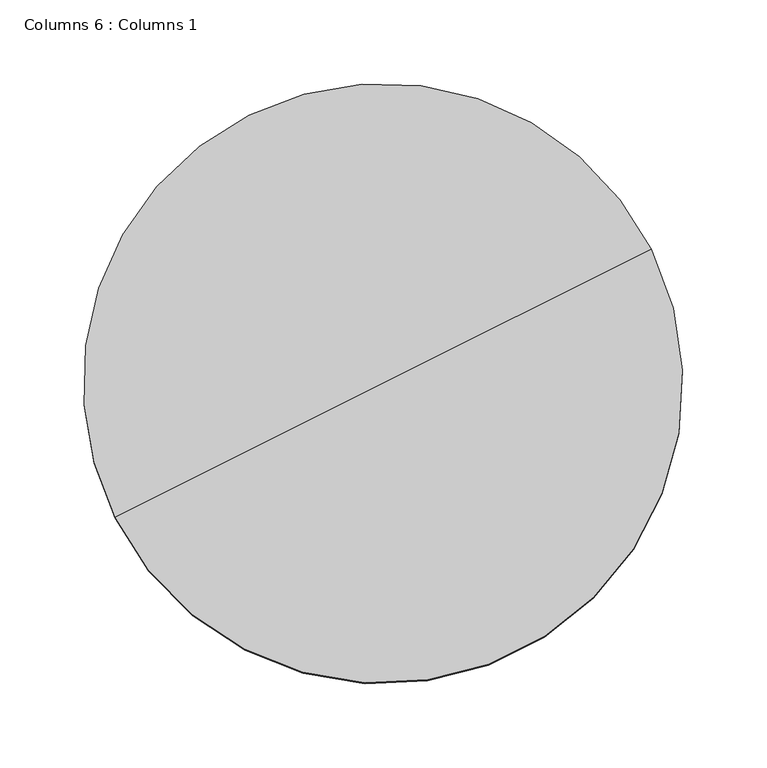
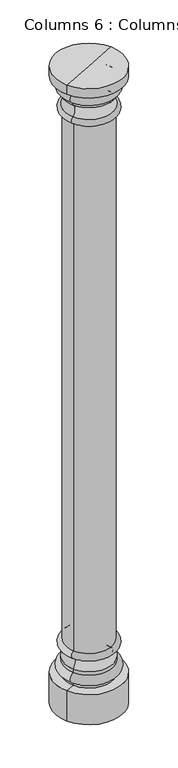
"""IFC4 building model written with IfcOpenShell, lengths in millimetres: column geometry, Columns 6 : Columns 1."""

from ifc_helpers import new_model, si_unit, point, frame, origin, place, context, project, spatial, circle_curve, ellipse_curve, trimmed, source, transform, mapped, element, save
from ifc_brep_helpers import plane_surface, cylinder_surface, revolved_surface, advanced_brep


def columns_6_columns_1_a7e48300(model_context):
    return source(origin(), model_context, "Body", "AdvancedBrep", [
        advanced_brep(
        [(-4598.42005, -9007.9465338, 3626.6477675), (-4916.5400464, -9166.8522539, 3626.6477675), (-4916.5400464, -9166.8522539, 3575.8477675), (-4598.42005, -9007.9465338, 3575.8477675), (-4757.4800482, -9087.3993938, 3626.6477675), (-4598.42005, -9007.9465338, 160.9345147), (-4916.5400464, -9166.8522539, 160.9345147), (-4757.4800482, -9087.3993938, 160.9345147), (-4598.42005, -9007.9465338, 324.6477676), (-4916.5400464, -9166.8522539, 324.6477676), (-4644.576497, -9031.0023729, 324.6477676), (-4870.3835993, -9143.7964148, 324.6477676), (-4644.576497, -9031.0023729, 343.7101955), (-4870.3835993, -9143.7964148, 343.7101955), (-4644.576497, -9031.0023729, 394.4853397), (-4870.3835993, -9143.7964148, 394.4853397), (-4644.576497, -9031.0023729, 413.5477676), (-4870.3835993, -9143.7964148, 413.5477676), (-4649.546478, -9033.4849531, 477.0477676), (-4865.4136184, -9141.3138346, 477.0477676), (-4649.546478, -9033.4849531, 508.7757334), (-4865.4136184, -9141.3138346, 508.7757334), (-4649.546478, -9033.4849531, 3391.7198017), (-4865.4136184, -9141.3138346, 3391.7198017), (-4643.8657638, -9030.6473509, 3391.7198017), (-4871.0943326, -9144.1514368, 3391.7198017), (-4643.8657638, -9030.6473509, 3423.4477675), (-4871.0943326, -9144.1514368, 3423.4477675), (-4643.8657638, -9030.6473509, 3486.9477675), (-4871.0943326, -9144.1514368, 3486.9477675), (-4643.8657638, -9030.6473509, 3505.9977675), (-4871.0943326, -9144.1514368, 3505.9977675), (-4643.8657638, -9030.6473509, 3556.7977675), (-4871.0943326, -9144.1514368, 3556.7977675), (-4643.8657638, -9030.6473509, 3575.8477675), (-4871.0943326, -9144.1514368, 3575.8477675)],
        [
            (0, 1, circle_curve(frame((-4757.4800482, -9087.3993938, 3626.6477675), z_axis=(0.0, 0.0, -1.0), x_axis=(-0.8946006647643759, -0.44686647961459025, 0.0)), 177.8)),
            (1, 2),
            (2, 3, circle_curve(frame((-4757.4800482, -9087.3993938, 3575.8477675), z_axis=(0.0, 0.0, 1.0), x_axis=(-0.8946006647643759, -0.44686647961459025, 0.0)), 177.8)),
            (3, 0),
            (1, 0, circle_curve(frame((-4757.4800482, -9087.3993938, 3626.6477675), z_axis=(0.0, 0.0, -1.0), x_axis=(-0.8946006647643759, -0.44686647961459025, 0.0)), 177.8)),
            (3, 2, circle_curve(frame((-4757.4800482, -9087.3993938, 3575.8477675), z_axis=(0.0, 0.0, 1.0), x_axis=(-0.8946006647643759, -0.44686647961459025, 0.0)), 177.8)),
            (4, 1),
            (0, 4),
            (5, 6, circle_curve(frame((-4757.4800482, -9087.3993938, 160.9345147), z_axis=(0.0, 0.0, -1.0), x_axis=(-0.8946006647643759, -0.44686647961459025, 0.0)), 177.8)),
            (6, 7),
            (7, 5),
            (6, 5, circle_curve(frame((-4757.4800482, -9087.3993938, 160.9345147), z_axis=(0.0, 0.0, -1.0), x_axis=(-0.8946006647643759, -0.44686647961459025, 0.0)), 177.8)),
            (8, 9, circle_curve(frame((-4757.4800482, -9087.3993938, 324.6477676), z_axis=(0.0, 0.0, -1.0), x_axis=(-0.8946006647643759, -0.44686647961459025, 0.0)), 177.8)),
            (9, 6),
            (5, 8),
            (9, 8, circle_curve(frame((-4757.4800482, -9087.3993938, 324.6477676), z_axis=(0.0, 0.0, -1.0), x_axis=(-0.8946006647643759, -0.44686647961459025, 0.0)), 177.8)),
            (10, 11, circle_curve(frame((-4757.4800482, -9087.3993938, 324.6477676), z_axis=(0.0, 0.0, -1.0), x_axis=(-0.8946006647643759, -0.44686647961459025, 0.0)), 126.2055301)),
            (11, 9),
            (8, 10),
            (11, 10, circle_curve(frame((-4757.4800482, -9087.3993938, 324.6477676), z_axis=(0.0, 0.0, -1.0), x_axis=(-0.8946006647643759, -0.44686647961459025, 0.0)), 126.2055301)),
            (12, 13, circle_curve(frame((-4757.4800482, -9087.3993938, 343.7101955), z_axis=(0.0, 0.0, -1.0), x_axis=(-0.8946006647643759, -0.44686647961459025, 0.0)), 126.2055301)),
            (13, 11),
            (10, 12),
            (13, 12, circle_curve(frame((-4757.4800482, -9087.3993938, 343.7101955), z_axis=(0.0, 0.0, -1.0), x_axis=(-0.8946006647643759, -0.44686647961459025, 0.0)), 126.2055301)),
            (14, 15, circle_curve(frame((-4757.4800482, -9087.3993938, 394.4853397), z_axis=(0.0, 0.0, -1.0), x_axis=(-0.8946006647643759, -0.44686647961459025, 0.0)), 126.2055301)),
            (15, 13, circle_curve(frame((-4870.3835993, -9143.7964148, 369.0977676), z_axis=(0.44686647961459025, -0.8946006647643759, 0.0), x_axis=(0.8946006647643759, 0.44686647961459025, 0.0)), 25.3875721)),
            (12, 14, circle_curve(frame((-4644.576497, -9031.0023729, 369.0977676), z_axis=(0.44686647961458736, -0.8946006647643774, 0.0), x_axis=(-0.8946006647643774, -0.44686647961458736, 0.0)), 25.3875721)),
            (15, 14, circle_curve(frame((-4757.4800482, -9087.3993938, 394.4853397), z_axis=(0.0, 0.0, -1.0), x_axis=(-0.8946006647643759, -0.44686647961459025, 0.0)), 126.2055301)),
            (16, 17, circle_curve(frame((-4757.4800482, -9087.3993938, 413.5477676), z_axis=(0.0, 0.0, -1.0), x_axis=(-0.8946006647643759, -0.44686647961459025, 0.0)), 126.2055301)),
            (17, 15),
            (14, 16),
            (17, 16, circle_curve(frame((-4757.4800482, -9087.3993938, 413.5477676), z_axis=(0.0, 0.0, -1.0), x_axis=(-0.8946006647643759, -0.44686647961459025, 0.0)), 126.2055301)),
            (18, 19, circle_curve(frame((-4757.4800482, -9087.3993938, 477.0477676), z_axis=(0.0, 0.0, -1.0), x_axis=(-0.8946006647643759, -0.44686647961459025, 0.0)), 120.65)),
            (19, 17, circle_curve(frame((-4895.6802065, -9156.4324503, 448.014706), z_axis=(-0.44686647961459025, 0.8946006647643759, 0.0), x_axis=(0.8946006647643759, 0.44686647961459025, 0.0)), 44.5820319)),
            (16, 18, circle_curve(frame((-4619.2798899, -9018.3663374, 448.014706), z_axis=(-0.44686647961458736, 0.8946006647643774, 0.0), x_axis=(-0.8946006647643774, -0.44686647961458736, 0.0)), 44.5820319)),
            (19, 18, circle_curve(frame((-4757.4800482, -9087.3993938, 477.0477676), z_axis=(0.0, 0.0, -1.0), x_axis=(-0.8946006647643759, -0.44686647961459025, 0.0)), 120.65)),
            (20, 21, circle_curve(frame((-4757.4800482, -9087.3993938, 508.7757334), z_axis=(0.0, 0.0, -1.0), x_axis=(-0.8946006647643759, -0.44686647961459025, 0.0)), 120.65)),
            (21, 19, circle_curve(frame((-4870.172825, -9143.6911299, 492.9117505), z_axis=(0.44686647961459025, -0.8946006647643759, 0.0), x_axis=(0.8946006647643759, 0.44686647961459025, 0.0)), 16.7322304)),
            (18, 20, circle_curve(frame((-4644.7872713, -9031.1076578, 492.9117505), z_axis=(0.44686647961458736, -0.8946006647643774, 0.0), x_axis=(-0.8946006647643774, -0.44686647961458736, 0.0)), 16.7322304)),
            (21, 20, circle_curve(frame((-4757.4800482, -9087.3993938, 508.7757334), z_axis=(0.0, 0.0, -1.0), x_axis=(-0.8946006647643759, -0.44686647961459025, 0.0)), 120.65)),
            (22, 23, circle_curve(frame((-4757.4800482, -9087.3993938, 3391.7198017), z_axis=(0.0, 0.0, -1.0), x_axis=(-0.8946006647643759, -0.44686647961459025, 0.0)), 120.65)),
            (23, 21),
            (20, 22),
            (23, 22, circle_curve(frame((-4757.4800482, -9087.3993938, 3391.7198017), z_axis=(0.0, 0.0, -1.0), x_axis=(-0.8946006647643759, -0.44686647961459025, 0.0)), 120.65)),
            (24, 25, circle_curve(frame((-4757.4800482, -9087.3993938, 3391.7198017), z_axis=(0.0, 0.0, -1.0), x_axis=(-0.8946006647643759, -0.44686647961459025, 0.0)), 127.0)),
            (25, 23),
            (22, 24),
            (25, 24, circle_curve(frame((-4757.4800482, -9087.3993938, 3391.7198017), z_axis=(0.0, 0.0, -1.0), x_axis=(-0.8946006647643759, -0.44686647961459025, 0.0)), 127.0)),
            (26, 27, circle_curve(frame((-4757.4800482, -9087.3993938, 3423.4477675), z_axis=(0.0, 0.0, -1.0), x_axis=(-0.8946006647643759, -0.44686647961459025, 0.0)), 127.0)),
            (27, 25, circle_curve(frame((-4871.0943326, -9144.1514368, 3407.5837846), z_axis=(0.44686647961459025, -0.8946006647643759, 0.0), x_axis=(0.8946006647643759, 0.44686647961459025, 0.0)), 15.8639829)),
            (24, 26, circle_curve(frame((-4643.8657638, -9030.6473509, 3407.5837846), z_axis=(0.44686647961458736, -0.8946006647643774, 0.0), x_axis=(-0.8946006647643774, -0.44686647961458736, 0.0)), 15.8639829)),
            (27, 26, circle_curve(frame((-4757.4800482, -9087.3993938, 3423.4477675), z_axis=(0.0, 0.0, -1.0), x_axis=(-0.8946006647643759, -0.44686647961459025, 0.0)), 127.0)),
            (28, 29, circle_curve(frame((-4757.4800482, -9087.3993938, 3486.9477675), z_axis=(0.0, 0.0, -1.0), x_axis=(-0.8946006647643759, -0.44686647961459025, 0.0)), 127.0)),
            (29, 27, circle_curve(frame((-4894.3248984, -9155.7554536, 3455.1977675), z_axis=(-0.44686647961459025, 0.8946006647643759, 0.0), x_axis=(0.8946006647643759, 0.44686647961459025, 0.0)), 41.0167636)),
            (26, 28, circle_curve(frame((-4620.6351979, -9019.0433341, 3455.1977675), z_axis=(-0.44686647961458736, 0.8946006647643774, 0.0), x_axis=(-0.8946006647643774, -0.44686647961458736, 0.0)), 41.0167636)),
            (29, 28, circle_curve(frame((-4757.4800482, -9087.3993938, 3486.9477675), z_axis=(0.0, 0.0, -1.0), x_axis=(-0.8946006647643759, -0.44686647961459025, 0.0)), 127.0)),
            (30, 31, circle_curve(frame((-4757.4800482, -9087.3993938, 3505.9977675), z_axis=(0.0, 0.0, -1.0), x_axis=(-0.8946006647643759, -0.44686647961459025, 0.0)), 127.0)),
            (31, 29),
            (28, 30),
            (31, 30, circle_curve(frame((-4757.4800482, -9087.3993938, 3505.9977675), z_axis=(0.0, 0.0, -1.0), x_axis=(-0.8946006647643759, -0.44686647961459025, 0.0)), 127.0)),
            (32, 33, circle_curve(frame((-4757.4800482, -9087.3993938, 3556.7977675), z_axis=(0.0, 0.0, -1.0), x_axis=(-0.8946006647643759, -0.44686647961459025, 0.0)), 127.0)),
            (33, 31, circle_curve(frame((-4871.0943326, -9144.1514368, 3531.3977675), z_axis=(0.44686647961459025, -0.8946006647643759, 0.0), x_axis=(0.8946006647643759, 0.44686647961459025, 0.0)), 25.4)),
            (30, 32, circle_curve(frame((-4643.8657638, -9030.6473509, 3531.3977675), z_axis=(0.44686647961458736, -0.8946006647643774, 0.0), x_axis=(-0.8946006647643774, -0.44686647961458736, 0.0)), 25.4)),
            (33, 32, circle_curve(frame((-4757.4800482, -9087.3993938, 3556.7977675), z_axis=(0.0, 0.0, -1.0), x_axis=(-0.8946006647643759, -0.44686647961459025, 0.0)), 127.0)),
            (34, 35, circle_curve(frame((-4757.4800482, -9087.3993938, 3575.8477675), z_axis=(0.0, 0.0, -1.0), x_axis=(-0.8946006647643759, -0.44686647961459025, 0.0)), 127.0)),
            (35, 33),
            (32, 34),
            (35, 34, circle_curve(frame((-4757.4800482, -9087.3993938, 3575.8477675), z_axis=(0.0, 0.0, -1.0), x_axis=(-0.8946006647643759, -0.44686647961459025, 0.0)), 127.0)),
            (2, 35),
            (34, 3),
        ],
        [
            cylinder_surface(frame((-4757.4800482, -9087.3993938, 273.8477676), z_axis=(0.0, 0.0, 1.0), x_axis=(-0.8946006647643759, -0.44686647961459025, 0.0)), 177.8),
            plane_surface(frame((-4757.4800482, -9087.3993938, 3626.6477675), z_axis=(0.0, 0.0, 1.0000000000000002), x_axis=(-0.8946006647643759, -0.44686647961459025, 0.0))),
            plane_surface(frame((-4757.4800482, -9087.3993938, 160.9345147), z_axis=(0.0, 0.0, -1.0000000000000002), x_axis=(-0.8946006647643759, -0.44686647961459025, 0.0))),
            plane_surface(frame((-4757.4800482, -9087.3993938, 324.6477676), z_axis=(0.0, 0.0, 1.0000000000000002), x_axis=(-0.8946006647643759, -0.44686647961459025, 0.0))),
            cylinder_surface(frame((-4757.4800482, -9087.3993938, 273.8477676), z_axis=(0.0, 0.0, 1.0), x_axis=(-0.8946006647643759, -0.44686647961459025, 0.0)), 126.2055301),
            revolved_surface(trimmed(ellipse_curve(frame((-4870.3835993, -9143.7964148, 369.0977676), z_axis=(-0.44686647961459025, 0.8946006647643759, 0.0), x_axis=(0.8946006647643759, 0.44686647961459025, 0.0)), 25.3875721, 25.3875721), [point((-4870.3835993, -9143.7964148, 343.7101955))], [point((-4870.3835993, -9143.7964148, 394.4853397))], True, "CARTESIAN"), (-4757.4800482, -9087.3993938, 273.8477676), (0.0, 0.0, 1.0)),
            revolved_surface(trimmed(ellipse_curve(frame((-4895.6802065, -9156.4324503, 448.014706), z_axis=(0.44686647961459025, -0.8946006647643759, 0.0), x_axis=(0.8946006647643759, 0.44686647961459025, 0.0)), 44.5820319, 44.5820319), [point((-4870.3835993, -9143.7964148, 413.5477676))], [point((-4865.4136184, -9141.3138346, 477.0477676))], True, "CARTESIAN"), (-4757.4800482, -9087.3993938, 273.8477676), (0.0, 0.0, 1.0)),
            revolved_surface(trimmed(ellipse_curve(frame((-4870.172825, -9143.6911299, 492.9117505), z_axis=(-0.44686647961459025, 0.8946006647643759, 0.0), x_axis=(0.8946006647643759, 0.44686647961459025, 0.0)), 16.7322304, 16.7322304), [point((-4865.4136184, -9141.3138346, 477.0477676))], [point((-4865.4136184, -9141.3138346, 508.7757334))], True, "CARTESIAN"), (-4757.4800482, -9087.3993938, 273.8477676), (0.0, 0.0, 1.0)),
            cylinder_surface(frame((-4757.4800482, -9087.3993938, 273.8477676), z_axis=(0.0, 0.0, 1.0), x_axis=(-0.8946006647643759, -0.44686647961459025, 0.0)), 120.65),
            plane_surface(frame((-4757.4800482, -9087.3993938, 3391.7198017), z_axis=(0.0, 0.0, -1.0000000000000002), x_axis=(-0.8946006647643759, -0.44686647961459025, 0.0))),
            revolved_surface(trimmed(ellipse_curve(frame((-4871.0943326, -9144.1514368, 3407.5837846), z_axis=(-0.44686647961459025, 0.8946006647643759, 0.0), x_axis=(0.8946006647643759, 0.44686647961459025, 0.0)), 15.8639829, 15.8639829), [point((-4871.0943326, -9144.1514368, 3391.7198017))], [point((-4871.0943326, -9144.1514368, 3423.4477675))], True, "CARTESIAN"), (-4757.4800482, -9087.3993938, 273.8477676), (0.0, 0.0, 1.0)),
            revolved_surface(trimmed(ellipse_curve(frame((-4894.3248984, -9155.7554536, 3455.1977675), z_axis=(0.44686647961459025, -0.8946006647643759, 0.0), x_axis=(0.8946006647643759, 0.44686647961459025, 0.0)), 41.0167636, 41.0167636), [point((-4871.0943326, -9144.1514368, 3423.4477675))], [point((-4871.0943326, -9144.1514368, 3486.9477675))], True, "CARTESIAN"), (-4757.4800482, -9087.3993938, 273.8477676), (0.0, 0.0, 1.0)),
            cylinder_surface(frame((-4757.4800482, -9087.3993938, 273.8477676), z_axis=(0.0, 0.0, 1.0), x_axis=(-0.8946006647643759, -0.44686647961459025, 0.0)), 127.0),
            revolved_surface(trimmed(ellipse_curve(frame((-4871.0943326, -9144.1514368, 3531.3977675), z_axis=(-0.44686647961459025, 0.8946006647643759, 0.0), x_axis=(0.8946006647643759, 0.44686647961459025, 0.0)), 25.4, 25.4), [point((-4871.0943326, -9144.1514368, 3505.9977675))], [point((-4871.0943326, -9144.1514368, 3556.7977675))], True, "CARTESIAN"), (-4757.4800482, -9087.3993938, 273.8477676), (0.0, 0.0, 1.0)),
            plane_surface(frame((-4757.4800482, -9087.3993938, 3575.8477675), z_axis=(0.0, 0.0, -1.0000000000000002), x_axis=(-0.8946006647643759, -0.44686647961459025, 0.0))),
        ],
        [
            (0, [[1, 2, 3, 4]]),
            (0, [[5, -4, 6, -2]]),
            (1, [[7, -1, 8]]),
            (1, [[-8, -5, -7]]),
            (2, [[9, 10, 11]]),
            (2, [[12, -11, -10]]),
            (0, [[13, 14, -9, 15]]),
            (0, [[16, -15, -12, -14]]),
            (3, [[17, 18, -13, 19]]),
            (3, [[20, -19, -16, -18]]),
            (4, [[21, 22, -17, 23]]),
            (4, [[24, -23, -20, -22]]),
            (5, [[25, 26, -21, 27]]),
            (5, [[28, -27, -24, -26]]),
            (4, [[29, 30, -25, 31]]),
            (4, [[32, -31, -28, -30]]),
            (6, [[33, 34, -29, 35]]),
            (6, [[36, -35, -32, -34]]),
            (7, [[37, 38, -33, 39]]),
            (7, [[40, -39, -36, -38]]),
            (8, [[41, 42, -37, 43]]),
            (8, [[44, -43, -40, -42]]),
            (9, [[45, 46, -41, 47]]),
            (9, [[48, -47, -44, -46]]),
            (10, [[49, 50, -45, 51]]),
            (10, [[52, -51, -48, -50]]),
            (11, [[53, 54, -49, 55]]),
            (11, [[56, -55, -52, -54]]),
            (12, [[57, 58, -53, 59]]),
            (12, [[60, -59, -56, -58]]),
            (13, [[61, 62, -57, 63]]),
            (13, [[64, -63, -60, -62]]),
            (12, [[65, 66, -61, 67]]),
            (12, [[68, -67, -64, -66]]),
            (14, [[-3, 69, -65, 70]]),
            (14, [[-6, -70, -68, -69]]),
        ],
    ),
    ])


if __name__ == "__main__":
    model = new_model("IFC4")
    model_context = context("Model", 3, world=origin())
    ifc_project = project(units=[si_unit("LENGTHUNIT", "METRE", prefix="MILLI")], contexts=[model_context])
    site = spatial("IfcSite", under=ifc_project)
    building = spatial("IfcBuilding", under=site)
    placement = place(None, origin())
    columns_6_columns_1_shape = columns_6_columns_1_a7e48300(model_context)
    element("IfcColumn", 1, ObjectType="Columns 6 : Columns 1", at=placement, inside=building, context=model_context, shape_type="MappedRepresentation", body=[
        mapped(columns_6_columns_1_shape, transform((0.0, 0.0, 0.0), x_axis=(1.0, 0.0, 0.0), y_axis=(0.0, 1.0, 0.0), z_axis=(0.0, 0.0, 1.0))),
    ])
    save(model, "model.ifc")
